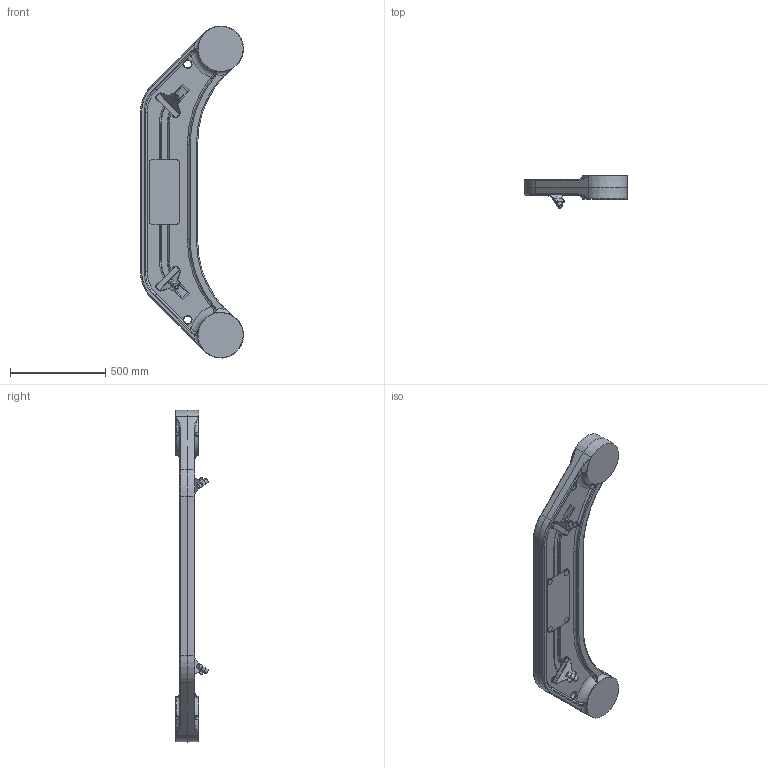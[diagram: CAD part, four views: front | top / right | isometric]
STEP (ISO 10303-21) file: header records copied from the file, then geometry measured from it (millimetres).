
FILE_DESCRIPTION(('CATIA V5 STEP Exchange','CAx-IF Rec.Pracs.--- Model Styling and Organization---1.2---2011-12-15','CAx-IF Rec.Pracs.--- Geometric and Assembly Validation Properties ---3.1---2011-10-19'),'2;1');
FILE_NAME('Z:\ROBOT\CATIA06\products\MC1000DL\Light_model\Step\060_J3_FixedLink_MC1000DL-02.stp','2016-12-26T04:07:57+00:00',('none'),('none'),'Version 5-6 Release 2012','CATIA V5 STEP AP214','none');
FILE_SCHEMA(('AUTOMOTIVE_DESIGN { 1 0 10303 214 1 1 1 1 }'));
Length unit declared in the file: millimetre
Products named in the file (1): 060_J3_FixedLink_MC1000DL-02
Bounding box: 539.84 x 168.83 x 1739.34 mm (x, y, z)
Volume: 30493739.6 mm3; surface area: 1711087.2 mm2
Topology: 8 solids, 8 shells, 399 faces, 966 edges, 562 vertices
Faces by surface type: plane 101, bspline 92, torus 80, cylinder 76, cone 50
Entity records: 19109 total; most frequent: CARTESIAN_POINT 10707, ORIENTED_EDGE 1876, DIRECTION 1270, EDGE_CURVE 938, AXIS2_PLACEMENT_3D 666, VERTEX_POINT 562, EDGE_LOOP 414, ADVANCED_FACE 399
